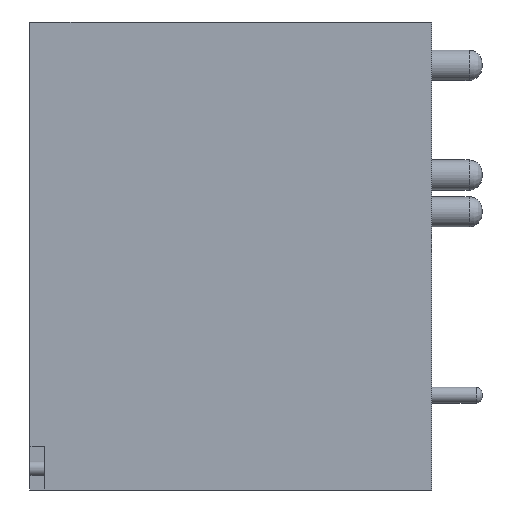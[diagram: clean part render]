
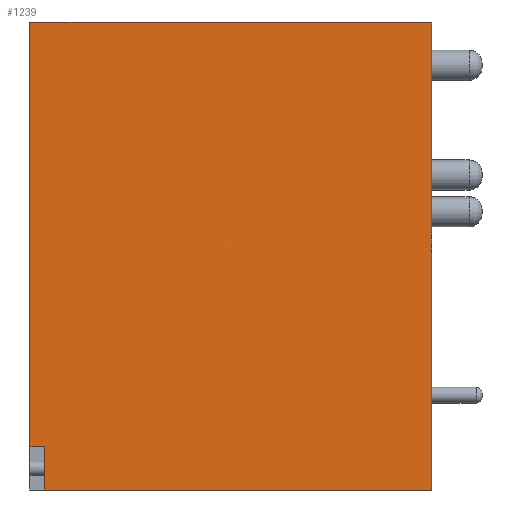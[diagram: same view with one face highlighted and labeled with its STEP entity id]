
A CAD part, left-side view. The second image highlights one B-rep face of the part: STEP entity #1239.
In plain terms, the highlighted planar face has unit normal (-1, 0, 0).
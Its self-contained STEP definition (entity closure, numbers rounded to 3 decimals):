
#129=PLANE('',#1366);
#143=LINE('',#1934,#266);
#145=LINE('',#1938,#268);
#149=LINE('',#1946,#272);
#246=LINE('',#2172,#369);
#252=LINE('',#2183,#375);
#253=LINE('',#2185,#376);
#266=VECTOR('',#1475,10.);
#268=VECTOR('',#1479,10.);
#272=VECTOR('',#1485,10.);
#369=VECTOR('',#1694,10.);
#375=VECTOR('',#1704,10.);
#376=VECTOR('',#1707,10.);
#460=FACE_OUTER_BOUND('',#540,.T.);
#540=EDGE_LOOP('',(#1153,#1154,#1155,#1156,#1157,#1158));
#595=VERTEX_POINT('',#1930);
#596=VERTEX_POINT('',#1932);
#597=VERTEX_POINT('',#1936);
#600=VERTEX_POINT('',#1944);
#673=VERTEX_POINT('',#2171);
#676=VERTEX_POINT('',#2181);
#716=EDGE_CURVE('',#595,#596,#143,.T.);
#718=EDGE_CURVE('',#596,#597,#145,.T.);
#722=EDGE_CURVE('',#600,#597,#149,.T.);
#831=EDGE_CURVE('',#595,#673,#246,.T.);
#837=EDGE_CURVE('',#676,#673,#252,.T.);
#838=EDGE_CURVE('',#676,#600,#253,.T.);
#1153=ORIENTED_EDGE('',*,*,#718,.T.);
#1154=ORIENTED_EDGE('',*,*,#722,.F.);
#1155=ORIENTED_EDGE('',*,*,#838,.F.);
#1156=ORIENTED_EDGE('',*,*,#837,.T.);
#1157=ORIENTED_EDGE('',*,*,#831,.F.);
#1158=ORIENTED_EDGE('',*,*,#716,.T.);
#1239=ADVANCED_FACE('',(#460),#129,.T.);
#1366=AXIS2_PLACEMENT_3D('',#2184,#1705,#1706);
#1475=DIRECTION('',(0.,-1.,0.));
#1479=DIRECTION('',(0.,0.,-1.));
#1485=DIRECTION('',(0.,1.,0.));
#1694=DIRECTION('',(0.,0.,1.));
#1704=DIRECTION('',(0.,1.,0.));
#1705=DIRECTION('center_axis',(-1.,0.,0.));
#1706=DIRECTION('ref_axis',(0.,0.,1.));
#1707=DIRECTION('',(0.,0.,-1.));
#1930=CARTESIAN_POINT('',(-13.75,27.8,-13.2));
#1932=CARTESIAN_POINT('',(-13.75,26.8,-13.2));
#1934=CARTESIAN_POINT('',(-13.75,13.9,-13.2));
#1936=CARTESIAN_POINT('',(-13.75,26.8,-16.2));
#1938=CARTESIAN_POINT('',(-13.75,26.8,-15.45));
#1944=CARTESIAN_POINT('',(-13.75,0.,-16.2));
#1946=CARTESIAN_POINT('',(-13.75,0.,-16.2));
#2171=CARTESIAN_POINT('',(-13.75,27.8,16.2));
#2172=CARTESIAN_POINT('',(-13.75,27.8,16.2));
#2181=CARTESIAN_POINT('',(-13.75,0.,16.2));
#2183=CARTESIAN_POINT('',(-13.75,0.,16.2));
#2184=CARTESIAN_POINT('Origin',(-13.75,0.,-16.2));
#2185=CARTESIAN_POINT('',(-13.75,0.,16.2));
